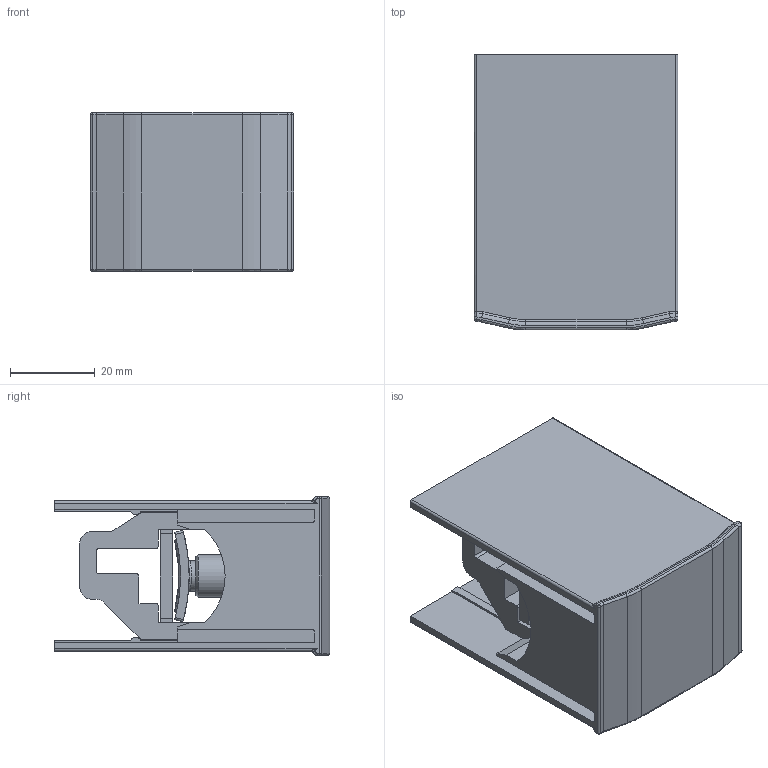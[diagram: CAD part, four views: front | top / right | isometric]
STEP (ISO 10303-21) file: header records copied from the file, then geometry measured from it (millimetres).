
FILE_DESCRIPTION (( 'STEP AP214' ), '1' );
FILE_NAME ('54373-.STEP', '2021-03-22T01:24:23', ( '' ), ( '' ), 'SwSTEP 2.0', 'SolidWorks 2017', '' );
FILE_SCHEMA (( 'AUTOMOTIVE_DESIGN' ));
Length unit declared in the file: millimetre
Products named in the file (2): 54373-
Bounding box: 48 x 65 x 37.4 mm (x, y, z)
Volume: 44004.5 mm3; surface area: 34337.7 mm2
Topology: 5 solids, 5 shells, 351 faces, 882 edges, 542 vertices
Faces by surface type: plane 154, cylinder 88, bspline 73, cone 16, sphere 16, torus 4
Full cylindrical faces by diameter (mm): 3.9 x1, 4 x1, 6 x1, 7 x1, 7.2 x1, 9 x1, 10 x1
Entity records: 16032 total; most frequent: CARTESIAN_POINT 4686, ORIENTED_EDGE 1710, DIRECTION 1368, EDGE_CURVE 855, VERTEX_POINT 535, LINE 478, VECTOR 478, AXIS2_PLACEMENT_3D 445
